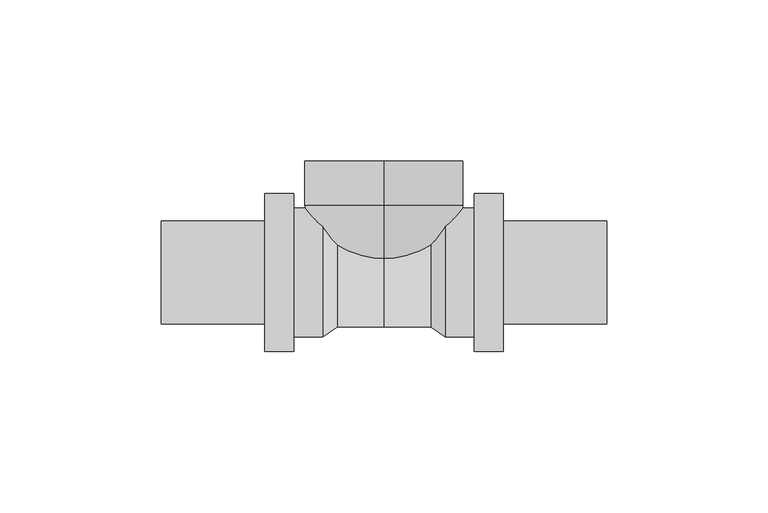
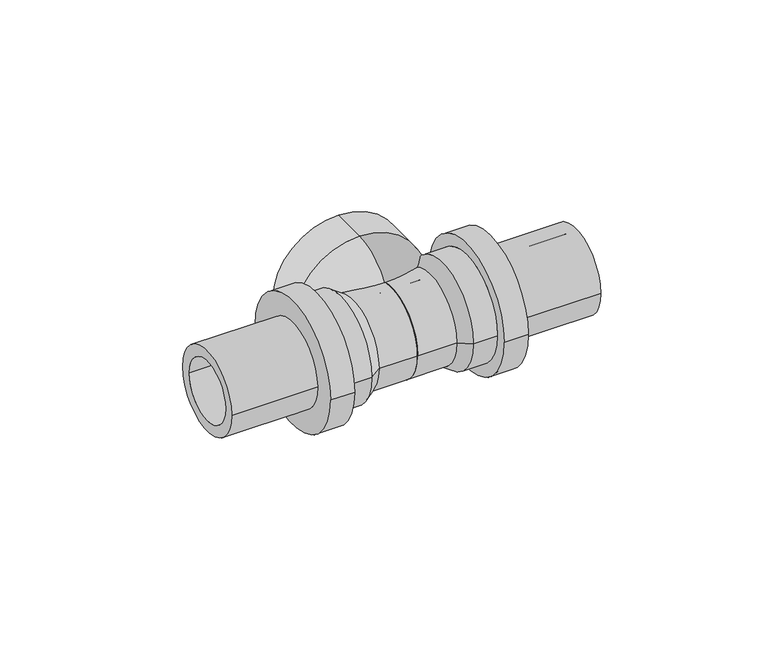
"""IFC4 building model written with IfcOpenShell, lengths in millimetres: pipe fitting geometry, REHAU_RAUTITAN_T-piece RX+, outlet with internal thread : REHAU_RAUTITAN_T-piece RX+, outlet with internal thread."""

from ifc_helpers import new_model, si_unit, point, frame, origin, place, context, project, spatial, polyline, circle_curve, ellipse_curve, trimmed, source, transform, mapped, element, save
from ifc_brep_helpers import plane_surface, cylinder_surface, revolved_surface, advanced_brep


def pipe_fitting_3f0aedb5(model_context):
    return source(origin(), model_context, "Body", "AdvancedBrep", [
        advanced_brep(
        [(0.0, 0.9112966, 5.23), (0.0, 0.9112966, -5.23), (0.0, 20.76, -24.585), (0.0, 20.76, 24.585), (0.0, 5.6432667, 5.23), (0.0, 5.6432667, -5.23), (0.0, 20.76, 19.855), (0.0, 20.76, -19.855), (0.0, 34.5, 19.855), (0.0, 34.5, -19.855), (0.0, 34.5, -24.585), (0.0, 34.5, 24.585)],
        [
            (0, 1, circle_curve(frame((0.0, 0.9112966, 0.0), z_axis=(0.0, 1.0, 0.0), x_axis=(0.0, 0.0, -1.0)), 5.23)),
            (1, 2, circle_curve(frame((0.0, 20.76, -4.73), z_axis=(1.0, 0.0, 0.0), x_axis=(0.0, 1.0, 0.0)), 19.855)),
            (2, 3, circle_curve(frame((0.0, 20.76, 0.0), z_axis=(0.0, -1.0, 0.0), x_axis=(0.0, 0.0, -1.0)), 24.585)),
            (3, 0, circle_curve(frame((0.0, 20.76, 4.73), z_axis=(1.0, 0.0, 0.0), x_axis=(0.0, 1.0, 0.0)), 19.855)),
            (4, 5, circle_curve(frame((0.0, 5.6432667, 0.0), z_axis=(0.0, 1.0, 0.0), x_axis=(0.0, 0.0, -1.0)), 5.23)),
            (5, 1),
            (0, 4),
            (6, 7, circle_curve(frame((0.0, 20.76, 0.0), z_axis=(0.0, 1.0, 0.0), x_axis=(0.0, 0.0, -1.0)), 19.855)),
            (7, 5, circle_curve(frame((0.0, 20.76, -4.73), z_axis=(-1.0, 0.0, 0.0), x_axis=(0.0, 1.0, 0.0)), 15.125)),
            (4, 6, circle_curve(frame((0.0, 20.76, 4.73), z_axis=(-1.0, 0.0, 0.0), x_axis=(0.0, 1.0, 0.0)), 15.125)),
            (8, 9, circle_curve(frame((0.0, 34.5, 0.0), z_axis=(0.0, 1.0, 0.0), x_axis=(0.0, 0.0, -1.0)), 19.855)),
            (9, 7),
            (6, 8),
            (2, 10),
            (10, 11, circle_curve(frame((0.0, 34.5, 0.0), z_axis=(0.0, -1.0, 0.0), x_axis=(0.0, 0.0, -1.0)), 24.585)),
            (11, 3),
            (1, 0, circle_curve(frame((0.0, 0.9112966, 0.0), z_axis=(0.0, 1.0, 0.0), x_axis=(0.0, 0.0, 1.0)), 5.23)),
            (3, 2, circle_curve(frame((0.0, 20.76, 0.0), z_axis=(0.0, -1.0, 0.0), x_axis=(0.0, 0.0, 1.0)), 24.585)),
            (5, 4, circle_curve(frame((0.0, 5.6432667, 0.0), z_axis=(0.0, 1.0, 0.0), x_axis=(0.0, 0.0, 1.0)), 5.23)),
            (7, 6, circle_curve(frame((0.0, 20.76, 0.0), z_axis=(0.0, 1.0, 0.0), x_axis=(0.0, 0.0, 1.0)), 19.855)),
            (9, 8, circle_curve(frame((0.0, 34.5, 0.0), z_axis=(0.0, 1.0, 0.0), x_axis=(0.0, 0.0, 1.0)), 19.855)),
            (10, 11, circle_curve(frame((0.0, 34.5, 0.0), z_axis=(0.0, 1.0, 0.0), x_axis=(0.0, 0.0, 1.0)), 24.585)),
        ],
        [
            revolved_surface(trimmed(ellipse_curve(frame((0.0, 20.76, -4.73), z_axis=(-1.0, 0.0, 0.0), x_axis=(0.0, 1.0, 0.0)), 19.855, 19.855), [point((0.0, 20.76, -24.585))], [point((0.0, 0.9112966, -5.23))], True, "CARTESIAN"), (0.0, 0.0, 0.0), (0.0, -1.0, 0.0)),
            revolved_surface(polyline([(0.0, 0.9112966, -5.23), (0.0, 5.6432667, -5.23)]), (0.0, 0.0, 0.0), (0.0, -1.0, 0.0)),
            revolved_surface(trimmed(ellipse_curve(frame((0.0, 20.76, -4.73), z_axis=(1.0, 0.0, 0.0), x_axis=(0.0, 1.0, 0.0)), 15.125, 15.125), [point((0.0, 5.6432667, -5.23))], [point((0.0, 20.76, -19.855))], True, "CARTESIAN"), (0.0, 0.0, 0.0), (0.0, -1.0, 0.0)),
            revolved_surface(polyline([(0.0, 20.76, -19.855), (0.0, 34.5, -19.855)]), (0.0, 0.0, 0.0), (0.0, -1.0, 0.0)),
            cylinder_surface(frame((0.0, 0.0, 0.0), z_axis=(0.0, -1.0, 0.0), x_axis=(0.0, 0.0, -1.0)), 24.585),
            revolved_surface(trimmed(ellipse_curve(frame((0.0, 20.76, 4.73), z_axis=(1.0, 0.0, 0.0), x_axis=(0.0, 1.0, 0.0)), 19.855, 19.855), [point((0.0, 20.76, 24.585))], [point((0.0, 0.9112966, 5.23))], True, "CARTESIAN"), (0.0, 0.0, 0.0), (0.0, -1.0, 0.0)),
            revolved_surface(polyline([(0.0, 0.9112966, 5.23), (0.0, 5.6432667, 5.23)]), (0.0, 0.0, 0.0), (0.0, -1.0, 0.0)),
            revolved_surface(trimmed(ellipse_curve(frame((0.0, 20.76, 4.73), z_axis=(-1.0, 0.0, 0.0), x_axis=(0.0, 1.0, 0.0)), 15.125, 15.125), [point((0.0, 5.6432667, 5.23))], [point((0.0, 20.76, 19.855))], True, "CARTESIAN"), (0.0, 0.0, 0.0), (0.0, -1.0, 0.0)),
            revolved_surface(polyline([(0.0, 20.76, 19.855), (0.0, 34.5, 19.855)]), (0.0, 0.0, 0.0), (0.0, -1.0, 0.0)),
            plane_surface(frame((0.0, 34.5, 0.0), z_axis=(0.0, 1.0, 0.0), x_axis=(0.0, 0.0, 1.0))),
            cylinder_surface(frame((0.0, 0.0, 0.0), z_axis=(0.0, -1.0, 0.0), x_axis=(0.0, 0.0, 1.0)), 24.585),
        ],
        [
            (0, [[1, 2, 3, 4]]),
            (1, [[5, 6, -1, 7]]),
            (2, [[8, 9, -5, 10]]),
            (3, [[11, 12, -8, 13]]),
            (4, [[-3, 14, 15, 16]]),
            (5, [[17, -4, 18, -2]]),
            (6, [[19, -7, -17, -6]]),
            (7, [[20, -10, -19, -9]]),
            (8, [[21, -13, -20, -12]]),
            (9, [[22, -15], [-21, -11]]),
            (10, [[-18, -16, -22, -14]]),
        ],
    ),
        advanced_brep(
        [(19.01, 11.755, 0.0), (19.01, -11.755, 0.0), (69.0, -11.755, 0.0), (69.0, 11.755, 0.0), (14.51, 12.495, 0.0), (14.51, -12.495, 0.0), (0.0, 12.495, 0.0), (0.0, -12.495, 0.0), (14.51, 16.925, 0.0), (14.51, -16.925, 0.0), (0.0, -16.925, 0.0), (0.0, 16.925, 0.0), (19.01, 20.0, 0.0), (19.01, -20.0, 0.0), (28.01, 20.0, 0.0), (28.01, -20.0, 0.0), (37.01, 24.49, 0.0), (37.01, -24.49, 0.0), (28.01, -24.49, 0.0), (28.01, 24.49, 0.0), (69.0, 15.995, 0.0), (69.0, -15.995, 0.0), (37.01, -15.995, 0.0), (37.01, 15.995, 0.0)],
        [
            (0, 1, circle_curve(frame((19.01, 0.0, 0.0), z_axis=(-1.0, 0.0, 0.0), x_axis=(0.0, -1.0, 0.0)), 11.755)),
            (1, 2),
            (2, 3, circle_curve(frame((69.0, 0.0, 0.0), z_axis=(1.0, 0.0, 0.0), x_axis=(0.0, -1.0, 0.0)), 11.755)),
            (3, 0),
            (4, 5, circle_curve(frame((14.51, 0.0, 0.0), z_axis=(-1.0, 0.0, 0.0), x_axis=(0.0, -1.0, 0.0)), 12.495)),
            (5, 1),
            (0, 4),
            (6, 7, circle_curve(frame((0.0, 0.0, 0.0), z_axis=(-1.0, 0.0, 0.0), x_axis=(0.0, -1.0, 0.0)), 12.495)),
            (7, 5),
            (4, 6),
            (8, 9, circle_curve(frame((14.51, 0.0, 0.0), z_axis=(-1.0, 0.0, 0.0), x_axis=(0.0, -1.0, 0.0)), 16.925)),
            (9, 10),
            (10, 11, circle_curve(frame((0.0, 0.0, 0.0), z_axis=(1.0, 0.0, 0.0), x_axis=(0.0, -1.0, 0.0)), 16.925)),
            (11, 8),
            (12, 13, circle_curve(frame((19.01, 0.0, 0.0), z_axis=(-1.0, 0.0, 0.0), x_axis=(0.0, -1.0, 0.0)), 20.0)),
            (13, 9),
            (8, 12),
            (14, 15, circle_curve(frame((28.01, 0.0, 0.0), z_axis=(-1.0, 0.0, 0.0), x_axis=(0.0, -1.0, 0.0)), 20.0)),
            (15, 13),
            (12, 14),
            (16, 17, circle_curve(frame((37.01, 0.0, 0.0), z_axis=(-1.0, 0.0, 0.0), x_axis=(0.0, -1.0, 0.0)), 24.49)),
            (17, 18),
            (18, 19, circle_curve(frame((28.01, 0.0, 0.0), z_axis=(1.0, 0.0, 0.0), x_axis=(0.0, -1.0, 0.0)), 24.49)),
            (19, 16),
            (20, 21, circle_curve(frame((69.0, 0.0, 0.0), z_axis=(-1.0, 0.0, 0.0), x_axis=(0.0, -1.0, 0.0)), 15.995)),
            (21, 22),
            (22, 23, circle_curve(frame((37.01, 0.0, 0.0), z_axis=(1.0, 0.0, 0.0), x_axis=(0.0, -1.0, 0.0)), 15.995)),
            (23, 20),
            (20, 21, circle_curve(frame((69.0, 0.0, 0.0), z_axis=(1.0, 0.0, 0.0), x_axis=(0.0, 1.0, 0.0)), 15.995)),
            (2, 3, circle_curve(frame((69.0, 0.0, 0.0), z_axis=(-1.0, 0.0, 0.0), x_axis=(0.0, 1.0, 0.0)), 11.755)),
            (1, 0, circle_curve(frame((19.01, 0.0, 0.0), z_axis=(-1.0, 0.0, 0.0), x_axis=(0.0, 1.0, 0.0)), 11.755)),
            (5, 4, circle_curve(frame((14.51, 0.0, 0.0), z_axis=(-1.0, 0.0, 0.0), x_axis=(0.0, 1.0, 0.0)), 12.495)),
            (7, 6, circle_curve(frame((0.0, 0.0, 0.0), z_axis=(-1.0, 0.0, 0.0), x_axis=(0.0, 1.0, 0.0)), 12.495)),
            (10, 11, circle_curve(frame((0.0, 0.0, 0.0), z_axis=(-1.0, 0.0, 0.0), x_axis=(0.0, 1.0, 0.0)), 16.925)),
            (9, 8, circle_curve(frame((14.51, 0.0, 0.0), z_axis=(-1.0, 0.0, 0.0), x_axis=(0.0, 1.0, 0.0)), 16.925)),
            (13, 12, circle_curve(frame((19.01, 0.0, 0.0), z_axis=(-1.0, 0.0, 0.0), x_axis=(0.0, 1.0, 0.0)), 20.0)),
            (15, 14, circle_curve(frame((28.01, 0.0, 0.0), z_axis=(-1.0, 0.0, 0.0), x_axis=(0.0, 1.0, 0.0)), 20.0)),
            (18, 19, circle_curve(frame((28.01, 0.0, 0.0), z_axis=(-1.0, 0.0, 0.0), x_axis=(0.0, 1.0, 0.0)), 24.49)),
            (17, 16, circle_curve(frame((37.01, 0.0, 0.0), z_axis=(-1.0, 0.0, 0.0), x_axis=(0.0, 1.0, 0.0)), 24.49)),
            (22, 23, circle_curve(frame((37.01, 0.0, 0.0), z_axis=(-1.0, 0.0, 0.0), x_axis=(0.0, 1.0, 0.0)), 15.995)),
        ],
        [
            revolved_surface(polyline([(69.0, -11.755, 0.0), (19.01, -11.755, 0.0)]), (0.0, 0.0, 0.0), (1.0, 0.0, 0.0)),
            revolved_surface(polyline([(19.01, -11.755, 0.0), (14.51, -12.495, 0.0)]), (0.0, 0.0, 0.0), (1.0, 0.0, 0.0)),
            revolved_surface(polyline([(14.51, -12.495, 0.0), (0.0, -12.495, 0.0)]), (0.0, 0.0, 0.0), (1.0, 0.0, 0.0)),
            cylinder_surface(frame((0.0, 0.0, 0.0), z_axis=(1.0, 0.0, 0.0), x_axis=(0.0, -1.0, 0.0)), 16.925),
            revolved_surface(polyline([(14.51, -16.925, 0.0), (19.01, -20.0, 0.0)]), (0.0, 0.0, 0.0), (1.0, 0.0, 0.0)),
            cylinder_surface(frame((0.0, 0.0, 0.0), z_axis=(1.0, 0.0, 0.0), x_axis=(0.0, -1.0, 0.0)), 20.0),
            cylinder_surface(frame((0.0, 0.0, 0.0), z_axis=(1.0, 0.0, 0.0), x_axis=(0.0, -1.0, 0.0)), 24.49),
            cylinder_surface(frame((0.0, 0.0, 0.0), z_axis=(1.0, 0.0, 0.0), x_axis=(0.0, -1.0, 0.0)), 15.995),
            plane_surface(frame((69.0, 0.0, 0.0), z_axis=(1.0, 0.0, 0.0), x_axis=(0.0, 1.0, 0.0))),
            revolved_surface(polyline([(69.0, 11.755, 0.0), (19.01, 11.755, 0.0)]), (0.0, 0.0, 0.0), (1.0, 0.0, 0.0)),
            revolved_surface(polyline([(19.01, 11.755, 0.0), (14.51, 12.495, 0.0)]), (0.0, 0.0, 0.0), (1.0, 0.0, 0.0)),
            revolved_surface(polyline([(14.51, 12.495, 0.0), (0.0, 12.495, 0.0)]), (0.0, 0.0, 0.0), (1.0, 0.0, 0.0)),
            plane_surface(frame((0.0, 0.0, 0.0), z_axis=(-1.0, 0.0, 0.0), x_axis=(0.0, 1.0, 0.0))),
            cylinder_surface(frame((0.0, 0.0, 0.0), z_axis=(1.0, 0.0, 0.0), x_axis=(0.0, 1.0, 0.0)), 16.925),
            revolved_surface(polyline([(14.51, 16.925, 0.0), (19.01, 20.0, 0.0)]), (0.0, 0.0, 0.0), (1.0, 0.0, 0.0)),
            cylinder_surface(frame((0.0, 0.0, 0.0), z_axis=(1.0, 0.0, 0.0), x_axis=(0.0, 1.0, 0.0)), 20.0),
            plane_surface(frame((28.01, 0.0, 0.0), z_axis=(-1.0, 0.0, 0.0), x_axis=(0.0, 1.0, 0.0))),
            cylinder_surface(frame((0.0, 0.0, 0.0), z_axis=(1.0, 0.0, 0.0), x_axis=(0.0, 1.0, 0.0)), 24.49),
            plane_surface(frame((37.01, 0.0, 0.0), z_axis=(1.0, 0.0, 0.0), x_axis=(0.0, 1.0, 0.0))),
            cylinder_surface(frame((0.0, 0.0, 0.0), z_axis=(1.0, 0.0, 0.0), x_axis=(0.0, 1.0, 0.0)), 15.995),
        ],
        [
            (0, [[1, 2, 3, 4]]),
            (1, [[5, 6, -1, 7]]),
            (2, [[8, 9, -5, 10]]),
            (3, [[11, 12, 13, 14]]),
            (4, [[15, 16, -11, 17]]),
            (5, [[18, 19, -15, 20]]),
            (6, [[21, 22, 23, 24]]),
            (7, [[25, 26, 27, 28]]),
            (8, [[29, -25], [30, -3]]),
            (9, [[31, -4, -30, -2]]),
            (10, [[32, -7, -31, -6]]),
            (11, [[33, -10, -32, -9]]),
            (12, [[34, -13], [-33, -8]]),
            (13, [[35, -14, -34, -12]]),
            (14, [[36, -17, -35, -16]]),
            (15, [[37, -20, -36, -19]]),
            (16, [[38, -23], [-37, -18]]),
            (17, [[39, -24, -38, -22]]),
            (18, [[-39, -21], [40, -27]]),
            (19, [[-29, -28, -40, -26]]),
        ],
    ),
        advanced_brep(
        [(-37.01, 15.995, 0.0), (-37.01, -15.995, 0.0), (-69.0, -15.995, 0.0), (-69.0, 15.995, 0.0), (-28.01, 24.49, 0.0), (-28.01, -24.49, 0.0), (-37.01, -24.49, 0.0), (-37.01, 24.49, 0.0), (-19.01, 20.0, 0.0), (-19.01, -20.0, 0.0), (-28.01, -20.0, 0.0), (-28.01, 20.0, 0.0), (-14.51, 16.925, 0.0), (-14.51, -16.925, 0.0), (0.0, 16.925, 0.0), (0.0, -16.925, 0.0), (-14.51, 12.495, 0.0), (-14.51, -12.495, 0.0), (0.0, -12.495, 0.0), (0.0, 12.495, 0.0), (-19.01, 11.755, 0.0), (-19.01, -11.755, 0.0), (-69.0, 11.755, 0.0), (-69.0, -11.755, 0.0)],
        [
            (0, 1, circle_curve(frame((-37.01, 0.0, 0.0), z_axis=(-1.0, 0.0, 0.0), x_axis=(0.0, -1.0, 0.0)), 15.995)),
            (1, 2),
            (2, 3, circle_curve(frame((-69.0, 0.0, 0.0), z_axis=(1.0, 0.0, 0.0), x_axis=(0.0, -1.0, 0.0)), 15.995)),
            (3, 0),
            (4, 5, circle_curve(frame((-28.01, 0.0, 0.0), z_axis=(-1.0, 0.0, 0.0), x_axis=(0.0, -1.0, 0.0)), 24.49)),
            (5, 6),
            (6, 7, circle_curve(frame((-37.01, 0.0, 0.0), z_axis=(1.0, 0.0, 0.0), x_axis=(0.0, -1.0, 0.0)), 24.49)),
            (7, 4),
            (8, 9, circle_curve(frame((-19.01, 0.0, 0.0), z_axis=(-1.0, 0.0, 0.0), x_axis=(0.0, -1.0, 0.0)), 20.0)),
            (9, 10),
            (10, 11, circle_curve(frame((-28.01, 0.0, 0.0), z_axis=(1.0, 0.0, 0.0), x_axis=(0.0, -1.0, 0.0)), 20.0)),
            (11, 8),
            (12, 13, circle_curve(frame((-14.51, 0.0, 0.0), z_axis=(-1.0, 0.0, 0.0), x_axis=(0.0, -1.0, 0.0)), 16.925)),
            (13, 9),
            (8, 12),
            (14, 15, circle_curve(frame((0.0, 0.0, 0.0), z_axis=(-1.0, 0.0, 0.0), x_axis=(0.0, -1.0, 0.0)), 16.925)),
            (15, 13),
            (12, 14),
            (16, 17, circle_curve(frame((-14.51, 0.0, 0.0), z_axis=(-1.0, 0.0, 0.0), x_axis=(0.0, -1.0, 0.0)), 12.495)),
            (17, 18),
            (18, 19, circle_curve(frame((0.0, 0.0, 0.0), z_axis=(1.0, 0.0, 0.0), x_axis=(0.0, -1.0, 0.0)), 12.495)),
            (19, 16),
            (20, 21, circle_curve(frame((-19.01, 0.0, 0.0), z_axis=(-1.0, 0.0, 0.0), x_axis=(0.0, -1.0, 0.0)), 11.755)),
            (21, 17),
            (16, 20),
            (22, 23, circle_curve(frame((-69.0, 0.0, 0.0), z_axis=(-1.0, 0.0, 0.0), x_axis=(0.0, -1.0, 0.0)), 11.755)),
            (23, 21),
            (20, 22),
            (1, 0, circle_curve(frame((-37.01, 0.0, 0.0), z_axis=(-1.0, 0.0, 0.0), x_axis=(0.0, 1.0, 0.0)), 15.995)),
            (3, 2, circle_curve(frame((-69.0, 0.0, 0.0), z_axis=(1.0, 0.0, 0.0), x_axis=(0.0, 1.0, 0.0)), 15.995)),
            (6, 7, circle_curve(frame((-37.01, 0.0, 0.0), z_axis=(-1.0, 0.0, 0.0), x_axis=(0.0, 1.0, 0.0)), 24.49)),
            (5, 4, circle_curve(frame((-28.01, 0.0, 0.0), z_axis=(-1.0, 0.0, 0.0), x_axis=(0.0, 1.0, 0.0)), 24.49)),
            (10, 11, circle_curve(frame((-28.01, 0.0, 0.0), z_axis=(-1.0, 0.0, 0.0), x_axis=(0.0, 1.0, 0.0)), 20.0)),
            (9, 8, circle_curve(frame((-19.01, 0.0, 0.0), z_axis=(-1.0, 0.0, 0.0), x_axis=(0.0, 1.0, 0.0)), 20.0)),
            (13, 12, circle_curve(frame((-14.51, 0.0, 0.0), z_axis=(-1.0, 0.0, 0.0), x_axis=(0.0, 1.0, 0.0)), 16.925)),
            (15, 14, circle_curve(frame((0.0, 0.0, 0.0), z_axis=(-1.0, 0.0, 0.0), x_axis=(0.0, 1.0, 0.0)), 16.925)),
            (18, 19, circle_curve(frame((0.0, 0.0, 0.0), z_axis=(-1.0, 0.0, 0.0), x_axis=(0.0, 1.0, 0.0)), 12.495)),
            (17, 16, circle_curve(frame((-14.51, 0.0, 0.0), z_axis=(-1.0, 0.0, 0.0), x_axis=(0.0, 1.0, 0.0)), 12.495)),
            (21, 20, circle_curve(frame((-19.01, 0.0, 0.0), z_axis=(-1.0, 0.0, 0.0), x_axis=(0.0, 1.0, 0.0)), 11.755)),
            (23, 22, circle_curve(frame((-69.0, 0.0, 0.0), z_axis=(-1.0, 0.0, 0.0), x_axis=(0.0, 1.0, 0.0)), 11.755)),
        ],
        [
            cylinder_surface(frame((0.0, 0.0, 0.0), z_axis=(1.0, 0.0, 0.0), x_axis=(0.0, -1.0, 0.0)), 15.995),
            cylinder_surface(frame((0.0, 0.0, 0.0), z_axis=(1.0, 0.0, 0.0), x_axis=(0.0, -1.0, 0.0)), 24.49),
            cylinder_surface(frame((0.0, 0.0, 0.0), z_axis=(1.0, 0.0, 0.0), x_axis=(0.0, -1.0, 0.0)), 20.0),
            revolved_surface(polyline([(-19.01, -20.0, 0.0), (-14.51, -16.925, 0.0)]), (0.0, 0.0, 0.0), (1.0, 0.0, 0.0)),
            cylinder_surface(frame((0.0, 0.0, 0.0), z_axis=(1.0, 0.0, 0.0), x_axis=(0.0, -1.0, 0.0)), 16.925),
            revolved_surface(polyline([(0.0, -12.495, 0.0), (-14.51, -12.495, 0.0)]), (0.0, 0.0, 0.0), (1.0, 0.0, 0.0)),
            revolved_surface(polyline([(-14.51, -12.495, 0.0), (-19.01, -11.755, 0.0)]), (0.0, 0.0, 0.0), (1.0, 0.0, 0.0)),
            revolved_surface(polyline([(-19.01, -11.755, 0.0), (-69.0, -11.755, 0.0)]), (0.0, 0.0, 0.0), (1.0, 0.0, 0.0)),
            cylinder_surface(frame((0.0, 0.0, 0.0), z_axis=(1.0, 0.0, 0.0), x_axis=(0.0, 1.0, 0.0)), 15.995),
            plane_surface(frame((-37.01, 0.0, 0.0), z_axis=(-1.0, 0.0, 0.0), x_axis=(0.0, 1.0, 0.0))),
            cylinder_surface(frame((0.0, 0.0, 0.0), z_axis=(1.0, 0.0, 0.0), x_axis=(0.0, 1.0, 0.0)), 24.49),
            plane_surface(frame((-28.01, 0.0, 0.0), z_axis=(1.0, 0.0, 0.0), x_axis=(0.0, 1.0, 0.0))),
            cylinder_surface(frame((0.0, 0.0, 0.0), z_axis=(1.0, 0.0, 0.0), x_axis=(0.0, 1.0, 0.0)), 20.0),
            revolved_surface(polyline([(-19.01, 20.0, 0.0), (-14.51, 16.925, 0.0)]), (0.0, 0.0, 0.0), (1.0, 0.0, 0.0)),
            cylinder_surface(frame((0.0, 0.0, 0.0), z_axis=(1.0, 0.0, 0.0), x_axis=(0.0, 1.0, 0.0)), 16.925),
            plane_surface(frame((0.0, 0.0, 0.0), z_axis=(1.0, 0.0, 0.0), x_axis=(0.0, 1.0, 0.0))),
            revolved_surface(polyline([(0.0, 12.495, 0.0), (-14.51, 12.495, 0.0)]), (0.0, 0.0, 0.0), (1.0, 0.0, 0.0)),
            revolved_surface(polyline([(-14.51, 12.495, 0.0), (-19.01, 11.755, 0.0)]), (0.0, 0.0, 0.0), (1.0, 0.0, 0.0)),
            revolved_surface(polyline([(-19.01, 11.755, 0.0), (-69.0, 11.755, 0.0)]), (0.0, 0.0, 0.0), (1.0, 0.0, 0.0)),
            plane_surface(frame((-69.0, 0.0, 0.0), z_axis=(-1.0, 0.0, 0.0), x_axis=(0.0, 1.0, 0.0))),
        ],
        [
            (0, [[1, 2, 3, 4]]),
            (1, [[5, 6, 7, 8]]),
            (2, [[9, 10, 11, 12]]),
            (3, [[13, 14, -9, 15]]),
            (4, [[16, 17, -13, 18]]),
            (5, [[19, 20, 21, 22]]),
            (6, [[23, 24, -19, 25]]),
            (7, [[26, 27, -23, 28]]),
            (8, [[29, -4, 30, -2]]),
            (9, [[31, -7], [-29, -1]]),
            (10, [[32, -8, -31, -6]]),
            (11, [[-32, -5], [33, -11]]),
            (12, [[34, -12, -33, -10]]),
            (13, [[35, -15, -34, -14]]),
            (14, [[36, -18, -35, -17]]),
            (15, [[-36, -16], [37, -21]]),
            (16, [[38, -22, -37, -20]]),
            (17, [[39, -25, -38, -24]]),
            (18, [[40, -28, -39, -27]]),
            (19, [[-30, -3], [-40, -26]]),
        ],
    ),
    ])


if __name__ == "__main__":
    model = new_model("IFC4")
    model_context = context("Model", 3, world=origin())
    ifc_project = project(units=[si_unit("LENGTHUNIT", "METRE", prefix="MILLI")], contexts=[model_context])
    site = spatial("IfcSite", under=ifc_project)
    building = spatial("IfcBuilding", under=site)
    placement = place(None, origin())
    pipe_fitting_shape = pipe_fitting_3f0aedb5(model_context)
    element("IfcPipeFitting", 1, ObjectType="REHAU_RAUTITAN_T-piece RX+, outlet with internal thread : REHAU_RAUTITAN_T-piece RX+, outlet with internal thread", at=placement, inside=building, context=model_context, shape_type="MappedRepresentation", body=[
        mapped(pipe_fitting_shape, transform((0.0, 0.0, 0.0), x_axis=(1.0, 0.0, 0.0), y_axis=(0.0, 1.0, 0.0), z_axis=(0.0, 0.0, 1.0))),
    ])
    save(model, "model.ifc")
